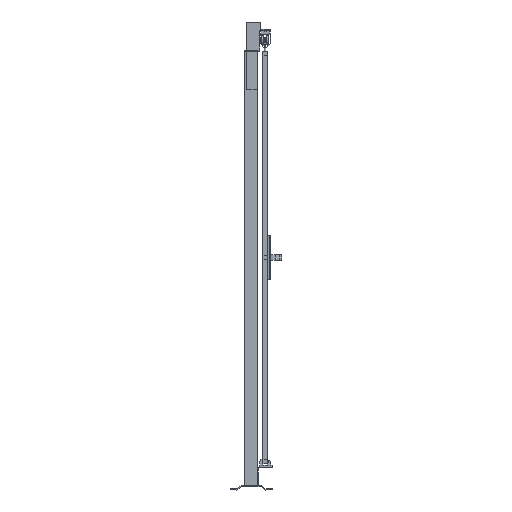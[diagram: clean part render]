
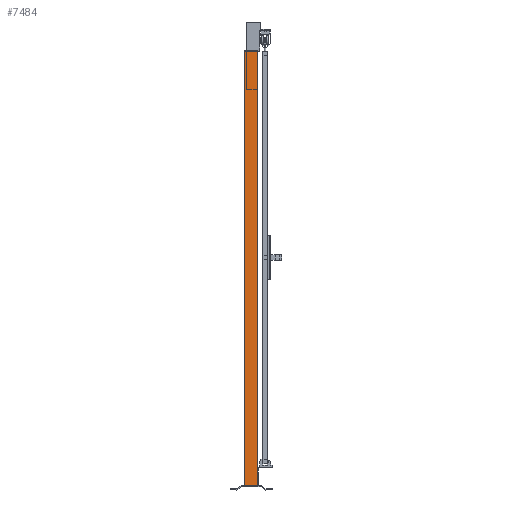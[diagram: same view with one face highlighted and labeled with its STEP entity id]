
A CAD part, left-side view. The second image highlights one B-rep face of the part: STEP entity #7484.
In plain terms, the highlighted planar face has unit normal (-1, 0, 0).
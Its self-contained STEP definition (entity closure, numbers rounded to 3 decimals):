
#546=PLANE('',#10892);
#1022=FACE_OUTER_BOUND('',#1548,.T.);
#1548=EDGE_LOOP('',(#5377,#5378,#5379,#5380));
#2379=VERTEX_POINT('',#15333);
#2380=VERTEX_POINT('',#15335);
#2383=VERTEX_POINT('',#15342);
#2384=VERTEX_POINT('',#15344);
#3547=EDGE_CURVE('',#2379,#2380,#8591,.T.);
#3551=EDGE_CURVE('',#2383,#2384,#8595,.T.);
#3553=EDGE_CURVE('',#2380,#2383,#8597,.T.);
#3555=EDGE_CURVE('',#2379,#2384,#8599,.T.);
#5377=ORIENTED_EDGE('',*,*,#3555,.T.);
#5378=ORIENTED_EDGE('',*,*,#3551,.F.);
#5379=ORIENTED_EDGE('',*,*,#3553,.F.);
#5380=ORIENTED_EDGE('',*,*,#3547,.F.);
#7484=ADVANCED_FACE('',(#1022),#546,.F.);
#8591=LINE('',#15336,#9849);
#8595=LINE('',#15345,#9853);
#8597=LINE('',#15348,#9855);
#8599=LINE('',#15351,#9857);
#9849=VECTOR('',#12269,1.);
#9853=VECTOR('',#12275,1.);
#9855=VECTOR('',#12279,1.);
#9857=VECTOR('',#12283,1.);
#10892=AXIS2_PLACEMENT_3D('',#15350,#12281,#12282);
#12269=DIRECTION('',(0.,-1.,0.));
#12275=DIRECTION('',(0.,1.,0.));
#12279=DIRECTION('',(0.,0.,-1.));
#12281=DIRECTION('center_axis',(1.,0.,0.));
#12282=DIRECTION('ref_axis',(0.,0.,-1.));
#12283=DIRECTION('',(0.,0.,-1.));
#15333=CARTESIAN_POINT('',(-30.,30.,2020.));
#15335=CARTESIAN_POINT('',(-30.,-30.,2020.));
#15336=CARTESIAN_POINT('',(-30.,0.,2020.));
#15342=CARTESIAN_POINT('',(-30.,-30.,20.));
#15344=CARTESIAN_POINT('',(-30.,30.,20.));
#15345=CARTESIAN_POINT('',(-30.,0.,20.));
#15348=CARTESIAN_POINT('',(-30.,-30.,1020.));
#15350=CARTESIAN_POINT('Origin',(-30.,0.,
1020.));
#15351=CARTESIAN_POINT('',(-30.,30.,1020.));
